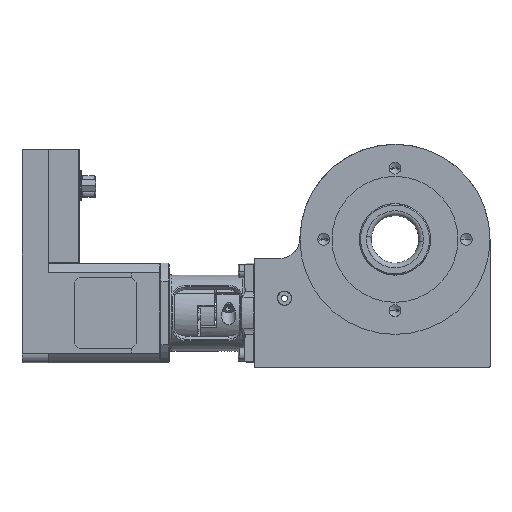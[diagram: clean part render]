
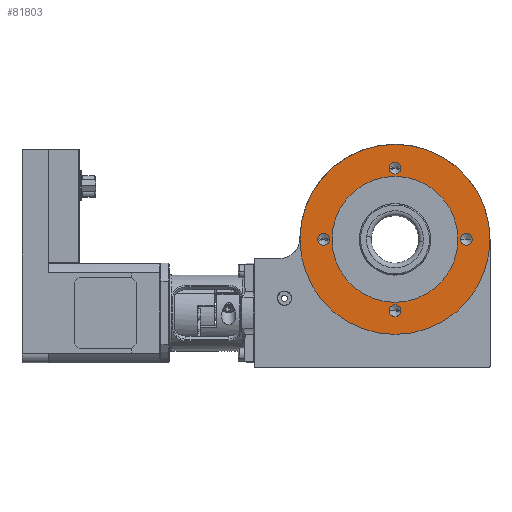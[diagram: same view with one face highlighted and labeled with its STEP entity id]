
A CAD part, front view. The second image highlights one B-rep face of the part: STEP entity #81803.
In plain terms, the highlighted planar face has unit normal (0, -1, 0).
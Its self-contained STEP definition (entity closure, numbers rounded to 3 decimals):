
#2240 = VERTEX_POINT ( 'NONE', #51918 ) ;
#3433 = ORIENTED_EDGE ( 'NONE', *, *, #14332, .F. ) ;
#3877 = EDGE_CURVE ( 'NONE', #20044, #80908, #76008, .T. ) ;
#4605 = DIRECTION ( 'NONE',  ( 1., 0., 0. ) ) ;
#5503 = CARTESIAN_POINT ( 'NONE',  ( 0., 0., 0. ) ) ;
#5912 = PLANE ( 'NONE',  #60263 ) ;
#6388 = CARTESIAN_POINT ( 'NONE',  ( 40., 0., 0. ) ) ;
#6590 = VERTEX_POINT ( 'NONE', #32609 ) ;
#7357 = CARTESIAN_POINT ( 'NONE',  ( -30., 0., 0. ) ) ;
#7798 = AXIS2_PLACEMENT_3D ( 'NONE', #5503, #49983, #11854 ) ;
#8106 = EDGE_CURVE ( 'NONE', #35012, #21457, #15788, .T. ) ;
#10771 = DIRECTION ( 'NONE',  ( 0., -1., 0. ) ) ;
#10772 = EDGE_CURVE ( 'NONE', #6590, #71191, #48373, .T. ) ;
#11356 = CIRCLE ( 'NONE', #24019, 2.5 ) ;
#11854 = DIRECTION ( 'NONE',  ( -1., 0., 0. ) ) ;
#12178 = EDGE_CURVE ( 'NONE', #67641, #79792, #64308, .T. ) ;
#12284 = CARTESIAN_POINT ( 'NONE',  ( 0., 0., 0. ) ) ;
#12285 = CARTESIAN_POINT ( 'NONE',  ( 0., 0., 0. ) ) ;
#12326 = FACE_OUTER_BOUND ( 'NONE', #79020, .T. ) ;
#13378 = CARTESIAN_POINT ( 'NONE',  ( 2.5, 0., -30. ) ) ;
#13700 = DIRECTION ( 'NONE',  ( -1., 0., 0. ) ) ;
#13704 = CARTESIAN_POINT ( 'NONE',  ( 30., 0., 0. ) ) ;
#14332 = EDGE_CURVE ( 'NONE', #80908, #20044, #28196, .T. ) ;
#14895 = DIRECTION ( 'NONE',  ( 0., -1., 0. ) ) ;
#15163 = CARTESIAN_POINT ( 'NONE',  ( 26.5, 0., 0. ) ) ;
#15383 = CARTESIAN_POINT ( 'NONE',  ( 0., 0., -30. ) ) ;
#15788 = CIRCLE ( 'NONE', #24266, 2.5 ) ;
#16420 = EDGE_LOOP ( 'NONE', ( #66721, #18252 ) ) ;
#18252 = ORIENTED_EDGE ( 'NONE', *, *, #54603, .F. ) ;
#18690 = DIRECTION ( 'NONE',  ( 1., 0., 0. ) ) ;
#18691 = DIRECTION ( 'NONE',  ( 0., 1., 0. ) ) ;
#20044 = VERTEX_POINT ( 'NONE', #57688 ) ;
#20144 = DIRECTION ( 'NONE',  ( -1., 0., 0. ) ) ;
#20755 = EDGE_CURVE ( 'NONE', #41427, #50815, #43468, .T. ) ;
#21457 = VERTEX_POINT ( 'NONE', #60555 ) ;
#21790 = DIRECTION ( 'NONE',  ( -1., 0., 0. ) ) ;
#24019 = AXIS2_PLACEMENT_3D ( 'NONE', #52998, #14895, #59432 ) ;
#24036 = EDGE_LOOP ( 'NONE', ( #48796, #66352 ) ) ;
#24266 = AXIS2_PLACEMENT_3D ( 'NONE', #7357, #51813, #13700 ) ;
#25936 = AXIS2_PLACEMENT_3D ( 'NONE', #37614, #82097, #44015 ) ;
#28196 = CIRCLE ( 'NONE', #79426, 40. ) ;
#28993 = CIRCLE ( 'NONE', #7798, 26.5 ) ;
#29264 = FACE_BOUND ( 'NONE', #24036, .T. ) ;
#29277 = AXIS2_PLACEMENT_3D ( 'NONE', #80780, #42695, #4605 ) ;
#30490 = DIRECTION ( 'NONE',  ( 0., -1., 0. ) ) ;
#31483 = DIRECTION ( 'NONE',  ( 0., -1., 0. ) ) ;
#31671 = ORIENTED_EDGE ( 'NONE', *, *, #3877, .F. ) ;
#32609 = CARTESIAN_POINT ( 'NONE',  ( 2.5, 0., 30. ) ) ;
#32859 = EDGE_CURVE ( 'NONE', #2240, #72268, #67923, .T. ) ;
#33260 = FACE_BOUND ( 'NONE', #76654, .T. ) ;
#34506 = CARTESIAN_POINT ( 'NONE',  ( 30., 0., 0. ) ) ;
#35012 = VERTEX_POINT ( 'NONE', #67618 ) ;
#37266 = AXIS2_PLACEMENT_3D ( 'NONE', #69556, #31483, #75985 ) ;
#37614 = CARTESIAN_POINT ( 'NONE',  ( 0., 0., 0. ) ) ;
#38152 = CIRCLE ( 'NONE', #37266, 2.5 ) ;
#38761 = AXIS2_PLACEMENT_3D ( 'NONE', #68561, #30490, #74996 ) ;
#40923 = DIRECTION ( 'NONE',  ( -1., 0., 0. ) ) ;
#41427 = VERTEX_POINT ( 'NONE', #45067 ) ;
#42695 = DIRECTION ( 'NONE',  ( 0., 1., 0. ) ) ;
#43468 = CIRCLE ( 'NONE', #67996, 2.5 ) ;
#44015 = DIRECTION ( 'NONE',  ( -1., 0., 0. ) ) ;
#45067 = CARTESIAN_POINT ( 'NONE',  ( 32.5, 0., 0. ) ) ;
#48183 = FACE_BOUND ( 'NONE', #16420, .T. ) ;
#48373 = CIRCLE ( 'NONE', #38761, 2.5 ) ;
#48796 = ORIENTED_EDGE ( 'NONE', *, *, #8106, .F. ) ;
#48865 = CARTESIAN_POINT ( 'NONE',  ( 0., 0., -30. ) ) ;
#49245 = ORIENTED_EDGE ( 'NONE', *, *, #78759, .F. ) ;
#49983 = DIRECTION ( 'NONE',  ( 0., -1., 0. ) ) ;
#50815 = VERTEX_POINT ( 'NONE', #52217 ) ;
#51813 = DIRECTION ( 'NONE',  ( 0., -1., 0. ) ) ;
#51918 = CARTESIAN_POINT ( 'NONE',  ( -26.5, 0., 0. ) ) ;
#52047 = CIRCLE ( 'NONE', #55865, 2.5 ) ;
#52171 = EDGE_LOOP ( 'NONE', ( #49245, #76914 ) ) ;
#52217 = CARTESIAN_POINT ( 'NONE',  ( 27.5, 0., 0. ) ) ;
#52998 = CARTESIAN_POINT ( 'NONE',  ( -30., 0., 0. ) ) ;
#54603 = EDGE_CURVE ( 'NONE', #72268, #2240, #28993, .T. ) ;
#55276 = DIRECTION ( 'NONE',  ( -1., 0., 0. ) ) ;
#55865 = AXIS2_PLACEMENT_3D ( 'NONE', #13704, #58239, #20144 ) ;
#56628 = ORIENTED_EDGE ( 'NONE', *, *, #79139, .F. ) ;
#56798 = DIRECTION ( 'NONE',  ( 0., 1., 0. ) ) ;
#57688 = CARTESIAN_POINT ( 'NONE',  ( -40., 0., 0. ) ) ;
#58239 = DIRECTION ( 'NONE',  ( 0., -1., 0. ) ) ;
#58689 = EDGE_CURVE ( 'NONE', #79792, #67641, #63443, .T. ) ;
#59432 = DIRECTION ( 'NONE',  ( -1., 0., 0. ) ) ;
#59732 = EDGE_CURVE ( 'NONE', #21457, #35012, #11356, .T. ) ;
#59892 = DIRECTION ( 'NONE',  ( 0., -1., 0. ) ) ;
#60171 = ORIENTED_EDGE ( 'NONE', *, *, #10772, .F. ) ;
#60263 = AXIS2_PLACEMENT_3D ( 'NONE', #12285, #18691, #63245 ) ;
#60555 = CARTESIAN_POINT ( 'NONE',  ( -27.5, 0., 0. ) ) ;
#62290 = AXIS2_PLACEMENT_3D ( 'NONE', #15383, #59892, #21790 ) ;
#63145 = FACE_BOUND ( 'NONE', #65578, .T. ) ;
#63245 = DIRECTION ( 'NONE',  ( 1., 0., 0. ) ) ;
#63443 = CIRCLE ( 'NONE', #75681, 2.5 ) ;
#64138 = CARTESIAN_POINT ( 'NONE',  ( -2.5, 0., -30. ) ) ;
#64308 = CIRCLE ( 'NONE', #62290, 2.5 ) ;
#65117 = FACE_BOUND ( 'NONE', #52171, .T. ) ;
#65578 = EDGE_LOOP ( 'NONE', ( #71428, #81478 ) ) ;
#66352 = ORIENTED_EDGE ( 'NONE', *, *, #59732, .F. ) ;
#66721 = ORIENTED_EDGE ( 'NONE', *, *, #32859, .F. ) ;
#67169 = CARTESIAN_POINT ( 'NONE',  ( -2.5, 0., 30. ) ) ;
#67618 = CARTESIAN_POINT ( 'NONE',  ( -32.5, 0., 0. ) ) ;
#67641 = VERTEX_POINT ( 'NONE', #13378 ) ;
#67923 = CIRCLE ( 'NONE', #25936, 26.5 ) ;
#67996 = AXIS2_PLACEMENT_3D ( 'NONE', #34506, #78990, #40923 ) ;
#68561 = CARTESIAN_POINT ( 'NONE',  ( 0., 0., 30. ) ) ;
#69556 = CARTESIAN_POINT ( 'NONE',  ( 0., 0., 30. ) ) ;
#71191 = VERTEX_POINT ( 'NONE', #67169 ) ;
#71428 = ORIENTED_EDGE ( 'NONE', *, *, #58689, .F. ) ;
#72268 = VERTEX_POINT ( 'NONE', #15163 ) ;
#74996 = DIRECTION ( 'NONE',  ( -1., 0., 0. ) ) ;
#75681 = AXIS2_PLACEMENT_3D ( 'NONE', #48865, #10771, #55276 ) ;
#75985 = DIRECTION ( 'NONE',  ( -1., 0., 0. ) ) ;
#76008 = CIRCLE ( 'NONE', #29277, 40. ) ;
#76654 = EDGE_LOOP ( 'NONE', ( #56628, #60171 ) ) ;
#76914 = ORIENTED_EDGE ( 'NONE', *, *, #20755, .F. ) ;
#78759 = EDGE_CURVE ( 'NONE', #50815, #41427, #52047, .T. ) ;
#78990 = DIRECTION ( 'NONE',  ( 0., -1., 0. ) ) ;
#79020 = EDGE_LOOP ( 'NONE', ( #31671, #3433 ) ) ;
#79139 = EDGE_CURVE ( 'NONE', #71191, #6590, #38152, .T. ) ;
#79426 = AXIS2_PLACEMENT_3D ( 'NONE', #12284, #56798, #18690 ) ;
#79792 = VERTEX_POINT ( 'NONE', #64138 ) ;
#80780 = CARTESIAN_POINT ( 'NONE',  ( 0., 0., 0. ) ) ;
#80908 = VERTEX_POINT ( 'NONE', #6388 ) ;
#81478 = ORIENTED_EDGE ( 'NONE', *, *, #12178, .F. ) ;
#81803 = ADVANCED_FACE ( 'NONE', ( #48183, #63145, #33260, #65117, #29264, #12326 ), #5912, .F. ) ;
#82097 = DIRECTION ( 'NONE',  ( 0., -1., 0. ) ) ;
